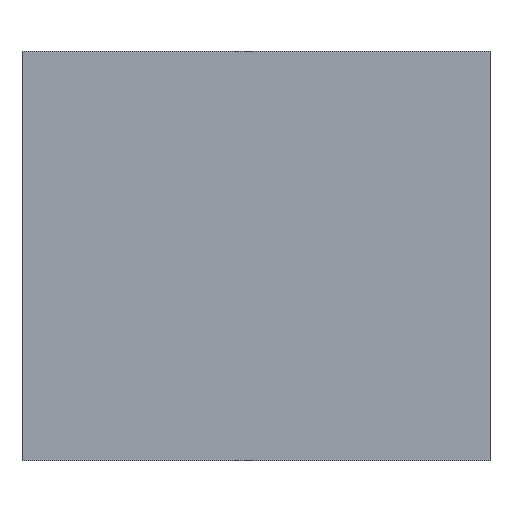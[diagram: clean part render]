
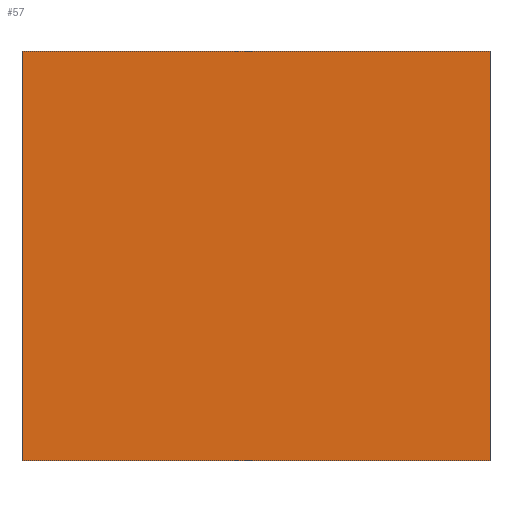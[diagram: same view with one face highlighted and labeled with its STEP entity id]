
A CAD part, front view. The second image highlights one B-rep face of the part: STEP entity #57.
In plain terms, the highlighted planar face has unit normal (0, -1, 0).
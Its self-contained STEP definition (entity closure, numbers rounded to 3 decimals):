
#57 = ADVANCED_FACE ( 'NONE', ( #6533 ), #92, .F. ) ;
#92 = PLANE ( 'NONE',  #8297 ) ;
#622 = CARTESIAN_POINT ( 'NONE',  ( 0., -17.5, 17.5 ) ) ;
#883 = DIRECTION ( 'NONE',  ( 0., 0., 1. ) ) ;
#1123 = VERTEX_POINT ( 'NONE', #2353 ) ;
#1995 = EDGE_CURVE ( 'NONE', #1123, #5373, #7539, .T. ) ;
#2353 = CARTESIAN_POINT ( 'NONE',  ( 40., -17.5, 17.5 ) ) ;
#2584 = DIRECTION ( 'NONE',  ( 0., 0., -1. ) ) ;
#2863 = CARTESIAN_POINT ( 'NONE',  ( 40., -17.5, 17.5 ) ) ;
#3602 = VECTOR ( 'NONE', #2584, 1000. ) ;
#3947 = EDGE_CURVE ( 'NONE', #5373, #7601, #6451, .T. ) ;
#4088 = CARTESIAN_POINT ( 'NONE',  ( 40., -17.5, -17.5 ) ) ;
#4104 = ORIENTED_EDGE ( 'NONE', *, *, #5338, .F. ) ;
#4137 = ORIENTED_EDGE ( 'NONE', *, *, #3947, .T. ) ;
#4531 = VECTOR ( 'NONE', #7199, 1000. ) ;
#5331 = VECTOR ( 'NONE', #10994, 1000. ) ;
#5338 = EDGE_CURVE ( 'NONE', #11036, #7601, #7632, .T. ) ;
#5373 = VERTEX_POINT ( 'NONE', #622 ) ;
#5560 = CARTESIAN_POINT ( 'NONE',  ( 40., -17.5, 17.5 ) ) ;
#5797 = DIRECTION ( 'NONE',  ( -1., 0., 0. ) ) ;
#6148 = ORIENTED_EDGE ( 'NONE', *, *, #1995, .T. ) ;
#6161 = ORIENTED_EDGE ( 'NONE', *, *, #10596, .F. ) ;
#6451 = LINE ( 'NONE', #6542, #3602 ) ;
#6533 = FACE_OUTER_BOUND ( 'NONE', #8593, .T. ) ;
#6542 = CARTESIAN_POINT ( 'NONE',  ( 0., -17.5, 17.5 ) ) ;
#6829 = LINE ( 'NONE', #2863, #4531 ) ;
#7199 = DIRECTION ( 'NONE',  ( 0., 0., -1. ) ) ;
#7477 = DIRECTION ( 'NONE',  ( 0., 1., 0. ) ) ;
#7522 = CARTESIAN_POINT ( 'NONE',  ( 40., -17.5, 17.5 ) ) ;
#7539 = LINE ( 'NONE', #5560, #8912 ) ;
#7601 = VERTEX_POINT ( 'NONE', #10920 ) ;
#7632 = LINE ( 'NONE', #4088, #5331 ) ;
#7732 = CARTESIAN_POINT ( 'NONE',  ( 40., -17.5, -17.5 ) ) ;
#8297 = AXIS2_PLACEMENT_3D ( 'NONE', #7522, #7477, #883 ) ;
#8593 = EDGE_LOOP ( 'NONE', ( #4137, #4104, #6161, #6148 ) ) ;
#8912 = VECTOR ( 'NONE', #5797, 1000. ) ;
#10596 = EDGE_CURVE ( 'NONE', #1123, #11036, #6829, .T. ) ;
#10920 = CARTESIAN_POINT ( 'NONE',  ( 0., -17.5, -17.5 ) ) ;
#10994 = DIRECTION ( 'NONE',  ( -1., 0., 0. ) ) ;
#11036 = VERTEX_POINT ( 'NONE', #7732 ) ;
